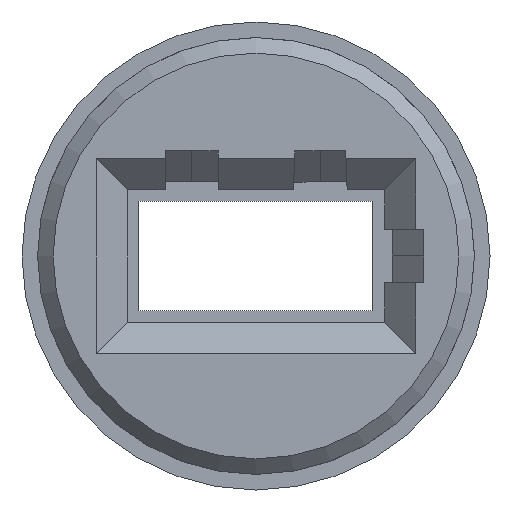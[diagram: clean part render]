
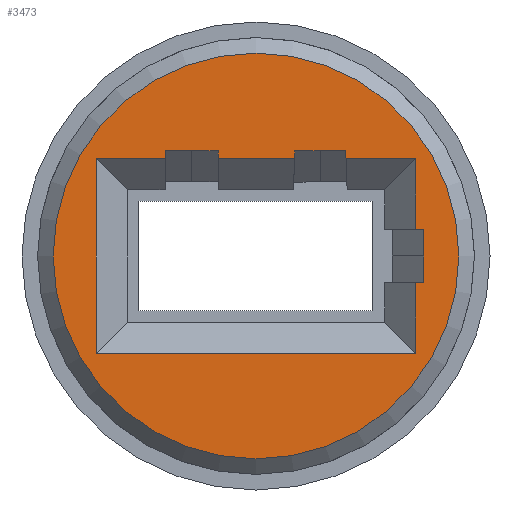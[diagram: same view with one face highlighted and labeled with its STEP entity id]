
A CAD part, front view. The second image highlights one B-rep face of the part: STEP entity #3473.
In plain terms, the highlighted planar face has unit normal (0, -1, 0).
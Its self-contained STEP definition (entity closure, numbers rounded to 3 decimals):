
#35=FACE_BOUND('',#546,.T.);
#64=PLANE('',#3673);
#192=CIRCLE('',#3672,13.);
#347=FACE_OUTER_BOUND('',#545,.T.);
#545=EDGE_LOOP('',(#3050));
#546=EDGE_LOOP('',(#3051,#3052,#3053,#3054,#3055,#3056,#3057,#3058,#3059,
#3060,#3061,#3062,#3063,#3064,#3065,#3066,#3067,#3068,#3069));
#980=LINE('',#10557,#1226);
#981=LINE('',#10559,#1227);
#982=LINE('',#10561,#1228);
#983=LINE('',#10563,#1229);
#984=LINE('',#10565,#1230);
#985=LINE('',#10567,#1231);
#986=LINE('',#10569,#1232);
#987=LINE('',#10571,#1233);
#988=LINE('',#10573,#1234);
#989=LINE('',#10575,#1235);
#990=LINE('',#10577,#1236);
#991=LINE('',#10579,#1237);
#992=LINE('',#10581,#1238);
#993=LINE('',#10583,#1239);
#994=LINE('',#10585,#1240);
#995=LINE('',#10587,#1241);
#996=LINE('',#10589,#1242);
#997=LINE('',#10591,#1243);
#998=LINE('',#10592,#1244);
#1226=VECTOR('',#4167,10.);
#1227=VECTOR('',#4168,10.);
#1228=VECTOR('',#4169,10.);
#1229=VECTOR('',#4170,10.);
#1230=VECTOR('',#4171,10.);
#1231=VECTOR('',#4172,10.);
#1232=VECTOR('',#4173,10.);
#1233=VECTOR('',#4174,10.);
#1234=VECTOR('',#4175,10.);
#1235=VECTOR('',#4176,10.);
#1236=VECTOR('',#4177,10.);
#1237=VECTOR('',#4178,10.);
#1238=VECTOR('',#4179,10.);
#1239=VECTOR('',#4180,10.);
#1240=VECTOR('',#4181,10.);
#1241=VECTOR('',#4182,10.);
#1242=VECTOR('',#4183,10.);
#1243=VECTOR('',#4184,10.);
#1244=VECTOR('',#4185,10.);
#1605=VERTEX_POINT('',#10551);
#1606=VERTEX_POINT('',#10555);
#1607=VERTEX_POINT('',#10556);
#1608=VERTEX_POINT('',#10558);
#1609=VERTEX_POINT('',#10560);
#1610=VERTEX_POINT('',#10562);
#1611=VERTEX_POINT('',#10564);
#1612=VERTEX_POINT('',#10566);
#1613=VERTEX_POINT('',#10568);
#1614=VERTEX_POINT('',#10570);
#1615=VERTEX_POINT('',#10572);
#1616=VERTEX_POINT('',#10574);
#1617=VERTEX_POINT('',#10576);
#1618=VERTEX_POINT('',#10578);
#1619=VERTEX_POINT('',#10580);
#1620=VERTEX_POINT('',#10582);
#1621=VERTEX_POINT('',#10584);
#1622=VERTEX_POINT('',#10586);
#1623=VERTEX_POINT('',#10588);
#1624=VERTEX_POINT('',#10590);
#2097=EDGE_CURVE('',#1605,#1605,#192,.T.);
#2098=EDGE_CURVE('',#1606,#1607,#980,.T.);
#2099=EDGE_CURVE('',#1608,#1606,#981,.T.);
#2100=EDGE_CURVE('',#1608,#1609,#982,.T.);
#2101=EDGE_CURVE('',#1610,#1609,#983,.T.);
#2102=EDGE_CURVE('',#1611,#1610,#984,.T.);
#2103=EDGE_CURVE('',#1611,#1612,#985,.T.);
#2104=EDGE_CURVE('',#1613,#1612,#986,.T.);
#2105=EDGE_CURVE('',#1614,#1613,#987,.T.);
#2106=EDGE_CURVE('',#1615,#1614,#988,.T.);
#2107=EDGE_CURVE('',#1616,#1615,#989,.T.);
#2108=EDGE_CURVE('',#1616,#1617,#990,.T.);
#2109=EDGE_CURVE('',#1618,#1617,#991,.T.);
#2110=EDGE_CURVE('',#1619,#1618,#992,.T.);
#2111=EDGE_CURVE('',#1619,#1620,#993,.T.);
#2112=EDGE_CURVE('',#1621,#1620,#994,.T.);
#2113=EDGE_CURVE('',#1621,#1622,#995,.T.);
#2114=EDGE_CURVE('',#1623,#1622,#996,.T.);
#2115=EDGE_CURVE('',#1624,#1623,#997,.T.);
#2116=EDGE_CURVE('',#1624,#1607,#998,.T.);
#3050=ORIENTED_EDGE('',*,*,#2097,.F.);
#3051=ORIENTED_EDGE('',*,*,#2098,.F.);
#3052=ORIENTED_EDGE('',*,*,#2099,.F.);
#3053=ORIENTED_EDGE('',*,*,#2100,.T.);
#3054=ORIENTED_EDGE('',*,*,#2101,.F.);
#3055=ORIENTED_EDGE('',*,*,#2102,.F.);
#3056=ORIENTED_EDGE('',*,*,#2103,.T.);
#3057=ORIENTED_EDGE('',*,*,#2104,.F.);
#3058=ORIENTED_EDGE('',*,*,#2105,.F.);
#3059=ORIENTED_EDGE('',*,*,#2106,.F.);
#3060=ORIENTED_EDGE('',*,*,#2107,.F.);
#3061=ORIENTED_EDGE('',*,*,#2108,.T.);
#3062=ORIENTED_EDGE('',*,*,#2109,.F.);
#3063=ORIENTED_EDGE('',*,*,#2110,.F.);
#3064=ORIENTED_EDGE('',*,*,#2111,.T.);
#3065=ORIENTED_EDGE('',*,*,#2112,.F.);
#3066=ORIENTED_EDGE('',*,*,#2113,.T.);
#3067=ORIENTED_EDGE('',*,*,#2114,.F.);
#3068=ORIENTED_EDGE('',*,*,#2115,.F.);
#3069=ORIENTED_EDGE('',*,*,#2116,.T.);
#3473=ADVANCED_FACE('',(#347,#35),#64,.F.);
#3672=AXIS2_PLACEMENT_3D('',#10553,#4163,#4164);
#3673=AXIS2_PLACEMENT_3D('',#10554,#4165,#4166);
#4163=DIRECTION('center_axis',(0.,1.,0.));
#4164=DIRECTION('ref_axis',(1.,0.,0.));
#4165=DIRECTION('center_axis',(0.,1.,0.));
#4166=DIRECTION('ref_axis',(1.,0.,0.));
#4167=DIRECTION('',(-1.,0.,0.));
#4168=DIRECTION('',(0.,0.,1.));
#4169=DIRECTION('',(1.,0.,0.));
#4170=DIRECTION('',(-0.001,0.,1.));
#4171=DIRECTION('',(0.001,0.,1.));
#4172=DIRECTION('',(-1.,0.,0.));
#4173=DIRECTION('',(0.,0.,1.));
#4174=DIRECTION('',(1.,0.,0.));
#4175=DIRECTION('',(0.,0.,-1.));
#4176=DIRECTION('',(-1.,0.,0.));
#4177=DIRECTION('',(0.,0.,1.));
#4178=DIRECTION('',(-1.,0.,0.));
#4179=DIRECTION('',(-1.,0.,0.));
#4180=DIRECTION('',(0.,0.,-1.));
#4181=DIRECTION('',(-1.,0.,0.));
#4182=DIRECTION('',(0.024,0.,1.));
#4183=DIRECTION('',(-1.,0.,-0.007));
#4184=DIRECTION('',(-1.,0.,-0.005));
#4185=DIRECTION('',(0.036,0.,-0.999));
#10551=CARTESIAN_POINT('',(-13.,0.,0.));
#10553=CARTESIAN_POINT('Origin',(0.,0.,0.));
#10554=CARTESIAN_POINT('Origin',(0.,0.,0.));
#10555=CARTESIAN_POINT('',(10.25,0.,6.25));
#10556=CARTESIAN_POINT('',(5.77,0.,6.25));
#10557=CARTESIAN_POINT('',(2.921,0.,6.25));
#10558=CARTESIAN_POINT('',(10.25,0.,1.7));
#10559=CARTESIAN_POINT('',(10.25,0.,2.125));
#10560=CARTESIAN_POINT('',(10.748,0.,1.7));
#10561=CARTESIAN_POINT('',(4.125,0.,1.7));
#10562=CARTESIAN_POINT('',(10.75,0.,0.));
#10563=CARTESIAN_POINT('',(10.749,0.,0.856));
#10564=CARTESIAN_POINT('',(10.748,0.,-1.7));
#10565=CARTESIAN_POINT('',(10.75,0.,-0.006));
#10566=CARTESIAN_POINT('',(10.25,0.,-1.7));
#10567=CARTESIAN_POINT('',(4.374,0.,-1.7));
#10568=CARTESIAN_POINT('',(10.25,0.,-6.25));
#10569=CARTESIAN_POINT('',(10.25,0.,-0.85));
#10570=CARTESIAN_POINT('',(-10.25,0.,-6.25));
#10571=CARTESIAN_POINT('',(4.125,0.,-6.25));
#10572=CARTESIAN_POINT('',(-10.25,0.,6.25));
#10573=CARTESIAN_POINT('',(-10.25,0.,-2.125));
#10574=CARTESIAN_POINT('',(-5.825,0.,6.25));
#10575=CARTESIAN_POINT('',(-4.125,0.,6.25));
#10576=CARTESIAN_POINT('',(-5.825,0.,6.75));
#10577=CARTESIAN_POINT('',(-5.825,0.,2.125));
#10578=CARTESIAN_POINT('',(-4.125,0.,6.75));
#10579=CARTESIAN_POINT('',(-2.912,0.,6.75));
#10580=CARTESIAN_POINT('',(-2.425,0.,6.75));
#10581=CARTESIAN_POINT('',(-2.063,0.,6.75));
#10582=CARTESIAN_POINT('',(-2.425,0.,6.25));
#10583=CARTESIAN_POINT('',(-2.425,0.,2.375));
#10584=CARTESIAN_POINT('',(2.46,0.,6.25));
#10585=CARTESIAN_POINT('',(-1.213,0.,6.25));
#10586=CARTESIAN_POINT('',(2.471,0.,6.739));
#10587=CARTESIAN_POINT('',(2.361,0.,2.098));
#10588=CARTESIAN_POINT('',(4.112,0.,6.75));
#10589=CARTESIAN_POINT('',(1.183,0.,6.731));
#10590=CARTESIAN_POINT('',(5.752,0.,6.759));
#10591=CARTESIAN_POINT('',(2.039,0.,6.739));
#10592=CARTESIAN_POINT('',(5.906,0.,2.487));
